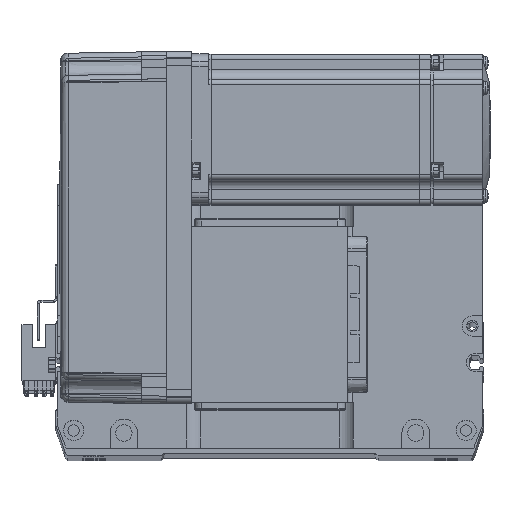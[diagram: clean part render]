
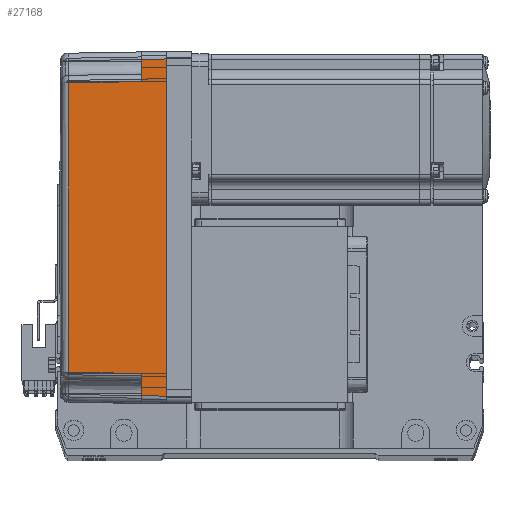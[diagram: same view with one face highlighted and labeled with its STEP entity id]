
A CAD part, top view. The second image highlights one B-rep face of the part: STEP entity #27168.
In plain terms, the highlighted planar face has unit normal (-0.018, 0, 1) as drawn and (0, 1, 0.017) by its records, which use the part's own axes.
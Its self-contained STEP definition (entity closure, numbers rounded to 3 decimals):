
#91 = VECTOR ( 'NONE', #10905, 1000. ) ;
#1106 = EDGE_CURVE ( 'NONE', #32861, #44312, #39494, .T. ) ;
#1828 = CARTESIAN_POINT ( 'NONE',  ( 70., 36., 0. ) ) ;
#2123 = DIRECTION ( 'NONE',  ( 0.017, 0.017, -1. ) ) ;
#3353 = VECTOR ( 'NONE', #4054, 1000. ) ;
#4054 = DIRECTION ( 'NONE',  ( 1., 0., 0. ) ) ;
#4732 = EDGE_CURVE ( 'NONE', #33594, #32861, #16763, .T. ) ;
#4922 = VECTOR ( 'NONE', #29470, 1000. ) ;
#5575 = CARTESIAN_POINT ( 'NONE',  ( -67., 36., 0. ) ) ;
#6554 = EDGE_LOOP ( 'NONE', ( #55035, #62758, #23259, #16570, #15038, #11370, #37941, #10122 ) ) ;
#6814 = EDGE_CURVE ( 'NONE', #7144, #9343, #11380, .T. ) ;
#7144 = VERTEX_POINT ( 'NONE', #63487 ) ;
#7585 = DIRECTION ( 'NONE',  ( 0., -0.017, 1. ) ) ;
#7803 = CARTESIAN_POINT ( 'NONE',  ( -19.165, 35.316, 39.181 ) ) ;
#8571 = CARTESIAN_POINT ( 'NONE',  ( -58., 35.825, 10. ) ) ;
#9343 = VERTEX_POINT ( 'NONE', #8571 ) ;
#9518 = VECTOR ( 'NONE', #16132, 1000. ) ;
#10122 = ORIENTED_EDGE ( 'NONE', *, *, #61621, .F. ) ;
#10905 = DIRECTION ( 'NONE',  ( 0.017, -0.017, 1. ) ) ;
#11370 = ORIENTED_EDGE ( 'NONE', *, *, #1106, .T. ) ;
#11380 = LINE ( 'NONE', #11585, #43017 ) ;
#11585 = CARTESIAN_POINT ( 'NONE',  ( 70., 35.825, 10. ) ) ;
#12313 = VECTOR ( 'NONE', #52658, 1000. ) ;
#15038 = ORIENTED_EDGE ( 'NONE', *, *, #4732, .T. ) ;
#15125 = CARTESIAN_POINT ( 'NONE',  ( 58., 35.825, 10. ) ) ;
#16132 = DIRECTION ( 'NONE',  ( 0.017, -0.017, 1. ) ) ;
#16570 = ORIENTED_EDGE ( 'NONE', *, *, #32595, .T. ) ;
#16763 = LINE ( 'NONE', #21018, #26745 ) ;
#16912 = CARTESIAN_POINT ( 'NONE',  ( -57.495, 35.32, 38.985 ) ) ;
#21018 = CARTESIAN_POINT ( 'NONE',  ( 57.495, 35.32, 38.985 ) ) ;
#21509 = DIRECTION ( 'NONE',  ( 1., 0., 0. ) ) ;
#22627 = LINE ( 'NONE', #36137, #9518 ) ;
#22679 = CARTESIAN_POINT ( 'NONE',  ( 67., 36., 0. ) ) ;
#23259 = ORIENTED_EDGE ( 'NONE', *, *, #57111, .T. ) ;
#25072 = B_SPLINE_CURVE_WITH_KNOTS ( 'NONE', 3,
 ( #37944, #7803, #32128, #32782 ),
 .UNSPECIFIED., .F., .F.,
 ( 4, 4 ),
 ( 0., 1. ),
 .UNSPECIFIED. ) ;
#26745 = VECTOR ( 'NONE', #2123, 1000. ) ;
#27168 = ADVANCED_FACE ( 'NONE', ( #33768 ), #56123, .T. ) ;
#29470 = DIRECTION ( 'NONE',  ( 1., 0., 0. ) ) ;
#31050 = LINE ( 'NONE', #39199, #4922 ) ;
#32128 = CARTESIAN_POINT ( 'NONE',  ( 19.165, 35.316, 39.181 ) ) ;
#32595 = EDGE_CURVE ( 'NONE', #55239, #33594, #25072, .T. ) ;
#32782 = CARTESIAN_POINT ( 'NONE',  ( 57.495, 35.32, 38.985 ) ) ;
#32861 = VERTEX_POINT ( 'NONE', #15125 ) ;
#33198 = CARTESIAN_POINT ( 'NONE',  ( 67.001, 36.001, -0.052 ) ) ;
#33594 = VERTEX_POINT ( 'NONE', #36777 ) ;
#33768 = FACE_OUTER_BOUND ( 'NONE', #6554, .T. ) ;
#36137 = CARTESIAN_POINT ( 'NONE',  ( -58., 35.825, 10. ) ) ;
#36141 = EDGE_CURVE ( 'NONE', #49609, #7144, #53262, .T. ) ;
#36777 = CARTESIAN_POINT ( 'NONE',  ( 57.495, 35.32, 38.985 ) ) ;
#37941 = ORIENTED_EDGE ( 'NONE', *, *, #47271, .F. ) ;
#37944 = CARTESIAN_POINT ( 'NONE',  ( -57.495, 35.32, 38.985 ) ) ;
#39199 = CARTESIAN_POINT ( 'NONE',  ( 0., 36., 0. ) ) ;
#39494 = LINE ( 'NONE', #53586, #3353 ) ;
#43017 = VECTOR ( 'NONE', #21509, 1000. ) ;
#43535 = CARTESIAN_POINT ( 'NONE',  ( -67., 36., 0. ) ) ;
#43732 = AXIS2_PLACEMENT_3D ( 'NONE', #1828, #46781, #7585 ) ;
#44312 = VERTEX_POINT ( 'NONE', #63031 ) ;
#46781 = DIRECTION ( 'NONE',  ( 0., 1., 0.017 ) ) ;
#47271 = EDGE_CURVE ( 'NONE', #59350, #44312, #51670, .T. ) ;
#49609 = VERTEX_POINT ( 'NONE', #43535 ) ;
#51670 = LINE ( 'NONE', #33198, #12313 ) ;
#52658 = DIRECTION ( 'NONE',  ( -0.017, -0.017, 1. ) ) ;
#53262 = LINE ( 'NONE', #5575, #91 ) ;
#53586 = CARTESIAN_POINT ( 'NONE',  ( 70., 35.825, 10. ) ) ;
#55035 = ORIENTED_EDGE ( 'NONE', *, *, #36141, .T. ) ;
#55239 = VERTEX_POINT ( 'NONE', #16912 ) ;
#56123 = PLANE ( 'NONE',  #43732 ) ;
#57111 = EDGE_CURVE ( 'NONE', #9343, #55239, #22627, .T. ) ;
#59350 = VERTEX_POINT ( 'NONE', #22679 ) ;
#61621 = EDGE_CURVE ( 'NONE', #49609, #59350, #31050, .T. ) ;
#62758 = ORIENTED_EDGE ( 'NONE', *, *, #6814, .T. ) ;
#63031 = CARTESIAN_POINT ( 'NONE',  ( 66.826, 35.825, 10. ) ) ;
#63487 = CARTESIAN_POINT ( 'NONE',  ( -66.826, 35.825, 10. ) ) ;
